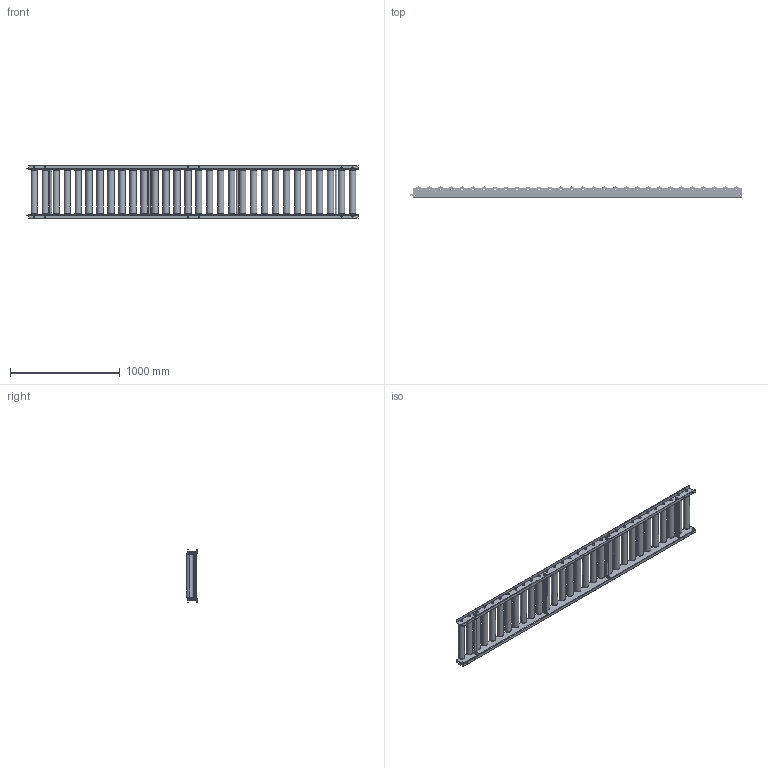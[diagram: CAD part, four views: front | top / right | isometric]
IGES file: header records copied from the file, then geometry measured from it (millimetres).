
Start section: SolidWorks IGES file using analytic representation for surfaces
Global section: file name: C:\Users\0656\Desktop\変換ツール\iges変換\R-5726.igs; native system: SolidWorks 2023; preprocessor: SolidWorks 2023; author: 0656; date: 240226.152458; units: millimetre
Bounding box: 3025 x 100.1 x 475 mm (x, y, z)
Surface area: 6278728.4 mm2 (no closed solid volume)
Topology: 0 solids, 0 shells, 1504 faces, 30452 edges, 30452 vertices
Faces by surface type: revolution 782, bspline 722
